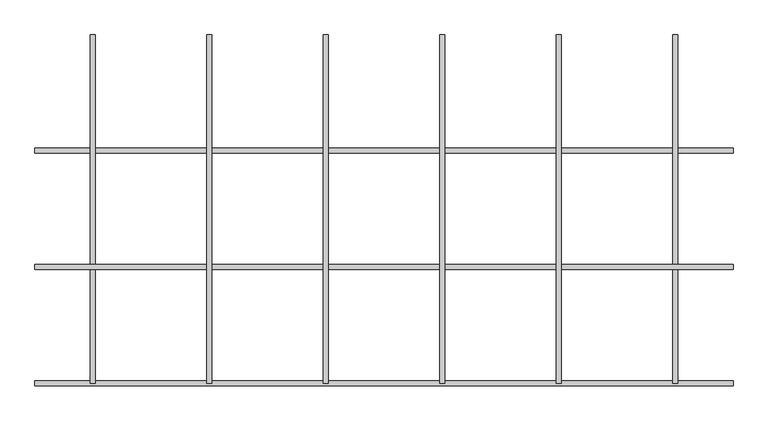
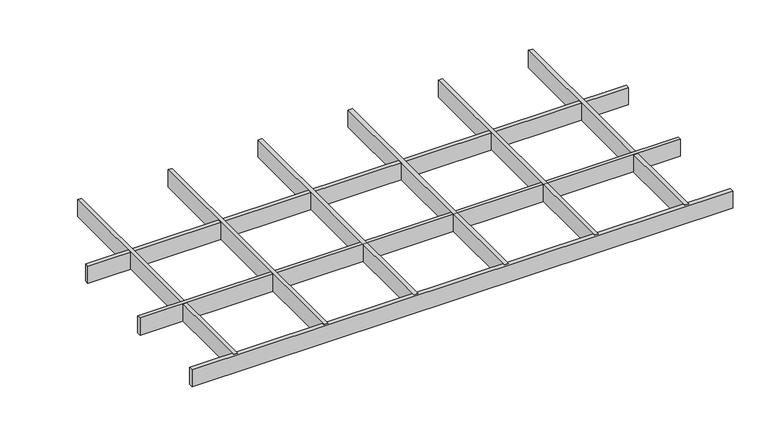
"""IFC4 building model written with IfcOpenShell, lengths in millimetres: proxy geometry, durlum_GEO_panel : durlum_GEO_9."""

from ifc_helpers import new_model, si_unit, origin, origin_with_axes, place, context, project, spatial, polyline, outline, extrude, source, transform, mapped, element, save


def generic_models_6ed68c57(model_context):
    return source(origin(), model_context, "Body", "SweptSolid", [
        extrude(outline(polyline([(295.5, 299.5), (304.5, 299.5), (304.5, -299.5), (295.5, -299.5), (295.5, 299.5)])), origin_with_axes(), (0.0, 0.0, 1.0), 40.0),
        extrude(outline(polyline([(95.5, 299.5), (104.5, 299.5), (104.5, -299.5), (95.5, -299.5), (95.5, 299.5)])), origin_with_axes(), (0.0, 0.0, 1.0), 40.0),
        extrude(outline(polyline([(-104.5, 299.5), (-95.5, 299.5), (-95.5, -299.5), (-104.5, -299.5), (-104.5, 299.5)])), origin_with_axes(), (0.0, 0.0, 1.0), 40.0),
        extrude(outline(polyline([(-304.5, 299.5), (-295.5, 299.5), (-295.5, -299.5), (-304.5, -299.5), (-304.5, 299.5)])), origin_with_axes(), (0.0, 0.0, 1.0), 40.0),
        extrude(outline(polyline([(599.5, -95.0), (599.5, -104.0), (-599.5, -104.0), (-599.5, -95.0), (599.5, -95.0)])), origin_with_axes(), (0.0, 0.0, 1.0), 40.0),
        extrude(outline(polyline([(495.5, 299.5), (504.5, 299.5), (504.5, -299.5), (495.5, -299.5), (495.5, 299.5)])), origin_with_axes(), (0.0, 0.0, 1.0), 40.0),
        extrude(outline(polyline([(-504.5, 299.5), (-495.5, 299.5), (-495.5, -299.5), (-504.5, -299.5), (-504.5, 299.5)])), origin_with_axes(), (0.0, 0.0, 1.0), 40.0),
        extrude(outline(polyline([(599.5, -295.0), (599.5, -304.0), (-599.5, -304.0), (-599.5, -295.0), (599.5, -295.0)])), origin_with_axes(), (0.0, 0.0, 1.0), 40.0),
        extrude(outline(polyline([(599.5, 105.0), (599.5, 96.0), (-599.5, 96.0), (-599.5, 105.0), (599.5, 105.0)])), origin_with_axes(), (0.0, 0.0, 1.0), 40.0),
    ])


if __name__ == "__main__":
    model = new_model("IFC4")
    model_context = context("Model", 3, world=origin())
    ifc_project = project(units=[si_unit("LENGTHUNIT", "METRE", prefix="MILLI")], contexts=[model_context])
    site = spatial("IfcSite", under=ifc_project)
    building = spatial("IfcBuilding", under=site)
    placement = place(None, origin())
    generic_models_shape = generic_models_6ed68c57(model_context)
    element("IfcBuildingElementProxy", 1, Name="durlum_GEO_panel : durlum_GEO_9", ObjectType="durlum_GEO_panel : durlum_GEO_9", at=placement, inside=building, context=model_context, shape_type="MappedRepresentation", body=[
        mapped(generic_models_shape, transform((0.0, 0.0, 0.0), x_axis=(1.0, 0.0, 0.0), y_axis=(0.0, 1.0, 0.0), z_axis=(0.0, 0.0, 1.0))),
    ])
    save(model, "model.ifc")
